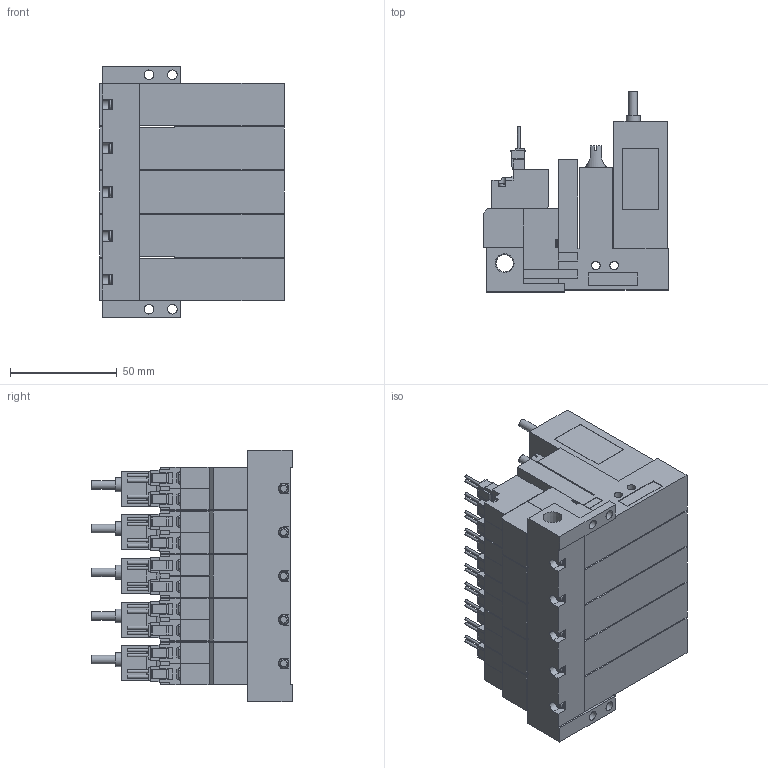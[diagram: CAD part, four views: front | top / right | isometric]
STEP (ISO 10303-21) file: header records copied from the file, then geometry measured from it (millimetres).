
FILE_DESCRIPTION(('STEP AP203'),'1');
FILE_NAME('VG_VGPL5BLR505.stp','2025-02-19T01:07:24',(' '),(' '),'Spatial InterOp 3D',' ',' ');
FILE_SCHEMA(('CONFIG_CONTROL_DESIGN'));
Length unit declared in the file: millimetre
Products named in the file (5): BMC22M※※※※VG_VGPL5BLR505; Solenoid valve B; Pressure sensor VGL; Unit L; Base MR50R
Assembly tree (16 placements, depth 2):
  BMC22M※※※※VG_VGPL5BLR505
    Solenoid valve B  x5
    Pressure sensor VGL  x5
    Unit L  x5
    Base MR50R
Bounding box: 86.6 x 94 x 118 mm (x, y, z)
Volume: 497396.2 mm3; surface area: 134039.2 mm2
Topology: 16 solids, 16 shells, 1796 faces, 4809 edges, 3185 vertices
Faces by surface type: plane 1514, cylinder 230, cone 37, torus 15
Full cylindrical faces by diameter (mm): 1.4 x20, 2.5 x15, 3 x20, 3.5 x20, 3.6 x5, 4 x30, 4.134 x5, 4.5 x4, 5.2 x5, 6 x5, 6.5 x5, 6.6 x5, 8.279 x1
Entity records: 13575 total; most frequent: CARTESIAN_POINT 2573, DIRECTION 2168, ORIENTED_EDGE 2108, EDGE_CURVE 1054, LINE 844, VECTOR 844, VERTEX_POINT 742, AXIS2_PLACEMENT_3D 662
